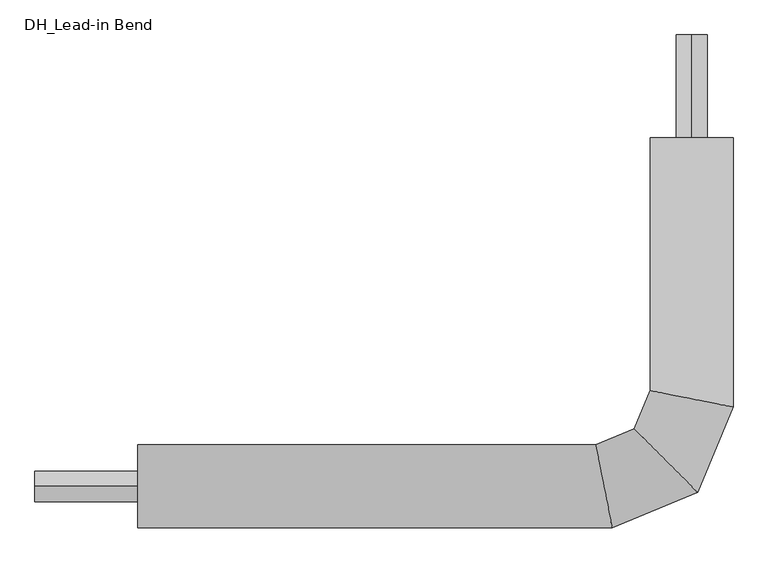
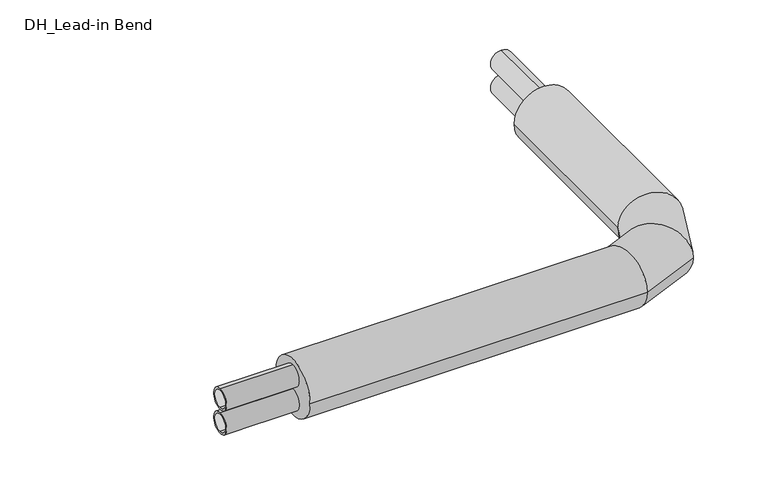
"""IFC4 building model written with IfcOpenShell, lengths in millimetres: pipe fitting geometry, DH_Lead-in Bend : RVT/RVX/RTX DUO 11 Heating Horizontal."""

from ifc_helpers import new_model, si_unit, point, frame, frame_2d, origin, place, context, project, spatial, circle_curve, ellipse_curve, trimmed, segment, composite_curve, outline, extrude, source, transform, mapped, element, save
from ifc_brep_helpers import plane_surface, cylinder_surface, advanced_brep


def dh_lead_in_bend_cb831e4c(model_context):
    return source(origin(), model_context, "Body", "SolidModel", [
        extrude(outline(composite_curve([segment(trimmed(circle_curve(frame_2d((0.0, -43.5)), 37.5), [point((0.0, -6.0))], [point((0.0, -81.0))], False, "CARTESIAN"), True, "CONTINUOUS"), segment(trimmed(circle_curve(frame_2d((0.0, -43.5)), 37.5), [point((0.0, -81.0))], [point((0.0, -6.0))], False, "CARTESIAN"), True, "CONTINUOUS")], self_intersect=False), holes=[composite_curve([segment(trimmed(circle_curve(frame_2d((0.0, -43.5)), 30.7), [point((0.0, -12.8))], [point((0.0, -74.2))], True, "CARTESIAN"), True, "CONTINUOUS"), segment(trimmed(circle_curve(frame_2d((0.0, -43.5)), 30.7), [point((0.0, -74.2))], [point((0.0, -12.8))], True, "CARTESIAN"), True, "CONTINUOUS")], self_intersect=False)]), frame((-1600.0, 0.0, 0.0), z_axis=(1.0, 0.0, 0.0), x_axis=(0.0, 1.0, 0.0)), (0.0, 0.0, 1.0), 250.0),
        extrude(outline(composite_curve([segment(trimmed(circle_curve(frame_2d((43.5, 0.0)), 37.5), [point((6.0, 0.0))], [point((81.0, 0.0))], False, "CARTESIAN"), True, "CONTINUOUS"), segment(trimmed(circle_curve(frame_2d((43.5, 0.0)), 37.5), [point((81.0, 0.0))], [point((6.0, 0.0))], False, "CARTESIAN"), True, "CONTINUOUS")], self_intersect=False), holes=[composite_curve([segment(trimmed(circle_curve(frame_2d((43.5, 0.0)), 30.7), [point((12.8, 0.0))], [point((74.2, 0.0))], True, "CARTESIAN"), True, "CONTINUOUS"), segment(trimmed(circle_curve(frame_2d((43.5, 0.0)), 30.7), [point((74.2, 0.0))], [point((12.8, 0.0))], True, "CARTESIAN"), True, "CONTINUOUS")], self_intersect=False)]), frame((0.0, 850.0, 0.0), z_axis=(0.0, 1.0, 0.0), x_axis=(0.0, 0.0, 1.0)), (0.0, 0.0, 1.0), 250.0),
        advanced_brep(
        [(-1350.0, -101.0, 0.0), (-1350.0, 101.0, 0.0), (-193.6098509, -101.0, 0.0), (-233.7901491, 101.0, 0.0), (101.0, 850.0, 0.0), (-101.0, 850.0, 0.0), (-101.0, 233.7901491, 0.0), (101.0, 193.6098509, 0.0), (14.7107725, -14.7107725, 0.0), (-139.8933342, 139.8933342, 0.0)],
        [
            (0, 1, circle_curve(frame((-1350.0, 0.0, 0.0), z_axis=(-1.0, 0.0, 0.0), x_axis=(0.0, 1.0, 0.0)), 101.0)),
            (1, 0, circle_curve(frame((-1350.0, 0.0, 0.0), z_axis=(-1.0, 0.0, 0.0), x_axis=(0.0, 1.0, 0.0)), 101.0)),
            (0, 2),
            (2, 3, ellipse_curve(frame((-213.7, 0.0, 0.0), z_axis=(-0.9807852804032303, -0.19509032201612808, 0.0), x_axis=(-0.19509032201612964, 0.9807852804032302, 0.0)), 102.978707, 101.0)),
            (3, 1),
            (3, 2, ellipse_curve(frame((-213.7, 0.0, 0.0), z_axis=(-0.9807852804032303, -0.19509032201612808, 0.0), x_axis=(-0.19509032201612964, 0.9807852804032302, 0.0)), 102.978707, 101.0)),
            (4, 5, circle_curve(frame((0.0, 850.0, 0.0), z_axis=(0.0, 1.0, 0.0), x_axis=(-1.0, 0.0, 0.0)), 101.0)),
            (5, 4, circle_curve(frame((0.0, 850.0, 0.0), z_axis=(0.0, 1.0, 0.0), x_axis=(-1.0, 0.0, 0.0)), 101.0)),
            (6, 7, ellipse_curve(frame((0.0, 213.7, 0.0), z_axis=(0.19509032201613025, 0.98078528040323, 0.0), x_axis=(0.9807852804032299, -0.19509032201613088, 0.0)), 102.978707, 101.0)),
            (7, 4),
            (5, 6),
            (7, 6, ellipse_curve(frame((0.0, 213.7, 0.0), z_axis=(0.19509032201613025, 0.98078528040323, 0.0), x_axis=(0.9807852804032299, -0.19509032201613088, 0.0)), 102.978707, 101.0)),
            (2, 8),
            (8, 9, ellipse_curve(frame((-62.5912809, 62.5912809, 0.0), z_axis=(-0.707106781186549, -0.707106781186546, 0.0), x_axis=(-0.7071067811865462, 0.7071067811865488, 0.0)), 109.3216122, 101.0)),
            (9, 3),
            (9, 8, ellipse_curve(frame((-62.5912809, 62.5912809, 0.0), z_axis=(-0.707106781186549, -0.707106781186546, 0.0), x_axis=(-0.7071067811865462, 0.7071067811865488, 0.0)), 109.3216122, 101.0)),
            (8, 7),
            (6, 9),
        ],
        [
            plane_surface(frame((-1350.0, 0.0, 0.0), z_axis=(-1.0, 0.0, 0.0), x_axis=(0.0, 0.0, 1.0))),
            cylinder_surface(frame((-1350.0, 0.0, 0.0), z_axis=(-1.0, 0.0, 0.0), x_axis=(0.0, 1.0, 0.0)), 101.0),
            plane_surface(frame((0.0, 850.0, 0.0), z_axis=(0.0, 1.0, 0.0), x_axis=(0.0, 0.0, 1.0))),
            cylinder_surface(frame((0.0, 213.7, 0.0), z_axis=(0.0, -1.0, 0.0), x_axis=(-1.0, 0.0, 0.0)), 101.0),
            cylinder_surface(frame((-213.7, 0.0, 0.0), z_axis=(-0.9238795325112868, -0.3826834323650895, 0.0), x_axis=(-0.3826834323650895, 0.9238795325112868, 0.0)), 101.0),
            cylinder_surface(frame((-62.5912809, 62.5912809, 0.0), z_axis=(-0.38268343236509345, -0.9238795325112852, 0.0), x_axis=(-0.9238795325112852, 0.38268343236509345, 0.0)), 101.0),
        ],
        [
            (0, [[1, 2]]),
            (1, [[-1, 3, 4, 5]]),
            (1, [[-2, -5, 6, -3]]),
            (2, [[7, 8]]),
            (3, [[9, 10, -8, 11]]),
            (3, [[12, -11, -7, -10]]),
            (4, [[-4, 13, 14, 15]]),
            (4, [[-6, -15, 16, -13]]),
            (5, [[-14, 17, -9, 18]]),
            (5, [[-16, -18, -12, -17]]),
        ],
    ),
        extrude(outline(composite_curve([segment(trimmed(circle_curve(frame_2d((0.0, 43.5)), 37.5), [point((0.0, 6.0))], [point((0.0, 81.0))], False, "CARTESIAN"), True, "CONTINUOUS"), segment(trimmed(circle_curve(frame_2d((0.0, 43.5)), 37.5), [point((0.0, 81.0))], [point((0.0, 6.0))], False, "CARTESIAN"), True, "CONTINUOUS")], self_intersect=False), holes=[composite_curve([segment(trimmed(circle_curve(frame_2d((0.0, 43.5)), 30.7), [point((0.0, 12.8))], [point((0.0, 74.2))], True, "CARTESIAN"), True, "CONTINUOUS"), segment(trimmed(circle_curve(frame_2d((0.0, 43.5)), 30.7), [point((0.0, 74.2))], [point((0.0, 12.8))], True, "CARTESIAN"), True, "CONTINUOUS")], self_intersect=False)]), frame((-1600.0, 0.0, 0.0), z_axis=(1.0, 0.0, 0.0), x_axis=(0.0, 1.0, 0.0)), (0.0, 0.0, 1.0), 250.0),
        extrude(outline(composite_curve([segment(trimmed(circle_curve(frame_2d((-43.5, 0.0)), 37.5), [point((-6.0, 0.0))], [point((-81.0, 0.0))], False, "CARTESIAN"), True, "CONTINUOUS"), segment(trimmed(circle_curve(frame_2d((-43.5, 0.0)), 37.5), [point((-81.0, 0.0))], [point((-6.0, 0.0))], False, "CARTESIAN"), True, "CONTINUOUS")], self_intersect=False), holes=[composite_curve([segment(trimmed(circle_curve(frame_2d((-43.5, 0.0)), 30.7), [point((-12.8, 0.0))], [point((-74.2, 0.0))], True, "CARTESIAN"), True, "CONTINUOUS"), segment(trimmed(circle_curve(frame_2d((-43.5, 0.0)), 30.7), [point((-74.2, 0.0))], [point((-12.8, 0.0))], True, "CARTESIAN"), True, "CONTINUOUS")], self_intersect=False)]), frame((0.0, 850.0, 0.0), z_axis=(0.0, 1.0, 0.0), x_axis=(0.0, 0.0, 1.0)), (0.0, 0.0, 1.0), 250.0),
    ])


if __name__ == "__main__":
    model = new_model("IFC4")
    model_context = context("Model", 3, world=origin())
    ifc_project = project(units=[si_unit("LENGTHUNIT", "METRE", prefix="MILLI")], contexts=[model_context])
    site = spatial("IfcSite", under=ifc_project)
    building = spatial("IfcBuilding", under=site)
    placement = place(None, origin())
    dh_lead_in_bend_shape = dh_lead_in_bend_cb831e4c(model_context)
    element("IfcPipeFitting", 1, ObjectType="DH_Lead-in Bend : RVT/RVX/RTX DUO 11 Heating Horizontal", at=placement, inside=building, context=model_context, shape_type="MappedRepresentation", body=[
        mapped(dh_lead_in_bend_shape, transform((0.0, 0.0, 0.0), x_axis=(1.0, 0.0, 0.0), y_axis=(0.0, 1.0, 0.0), z_axis=(0.0, 0.0, 1.0))),
    ])
    save(model, "model.ifc")
